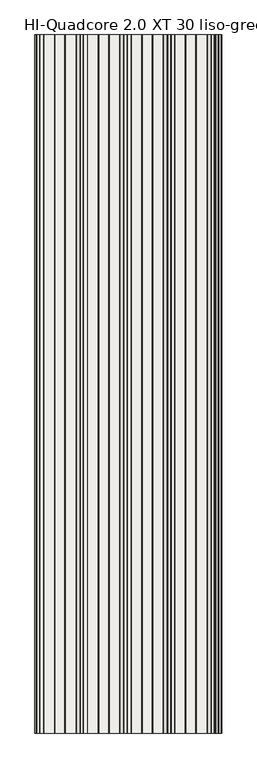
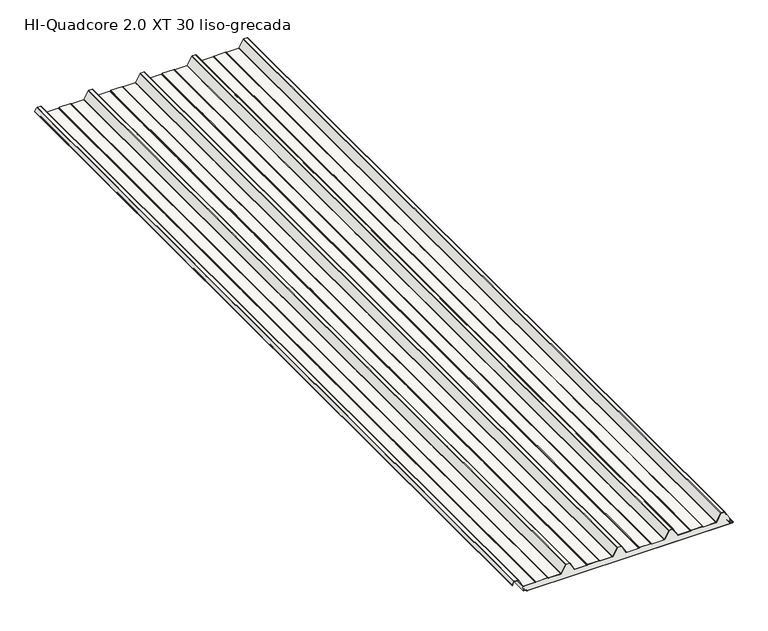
"""IFC4 building model written with IfcOpenShell, lengths in millimetres: slab geometry, Panel_HI_QuadCore 2.0 XT-XT DUAL_liso-grecada : HI-Quadcore 2.0 XT 30 liso-grecada."""

from ifc_helpers import new_model, si_unit, point, frame, frame_2d, origin, place, context, project, spatial, polyline, circle_curve, trimmed, segment, composite_curve, outline, extrude, source, transform, mapped, element, save
from ifc_brep_helpers import plane_surface, cylinder_surface, revolved_surface, advanced_brep


def hi_quadcore_2_0_xt_30_liso_grecada_d3419650(model_context):
    return source(origin(), model_context, "Body", "SolidModel", [
        advanced_brep(
        [(-463.5686109, 0.0, 13.3795578), (-464.1543582, 0.0, 11.9654043), (-464.1543963, 0.0, 8.2995811), (-462.3003213, 0.0, 6.328543), (-451.8922768, 0.0, 5.5663871), (-450.0967368, 0.0, 3.5769209), (-450.0966924, 0.0, 1.9756011), (-448.096637, 0.0, -0.0243435), (547.9162803, 0.0, 0.003269), (549.9046779, 0.0, 2.0032908), (549.904653, 0.0, 2.9012893), (548.0077486, 0.0, 4.8985749), (536.1928118, 0.0, 5.7933732), (534.3438482, 0.0, 7.7876066), (534.3437386, 0.0, 11.7402379), (533.757913, 0.0, 13.1544352), (532.3436602, 0.0, 14.5686095), (531.7779748, 0.0, 14.0029241), (533.1922433, 0.0, 12.5887341), (533.5437386, 0.0, 11.7402157), (533.5438482, 0.0, 7.7875844), (536.1323972, 0.0, 4.9956577), (547.958132, 0.0, 4.1000416), (549.104653, 0.0, 2.9012672), (549.1046779, 0.0, 2.0032686), (547.9136554, 0.0, 0.8032689), (-448.0966592, 0.0, 0.7756565), (-449.2966924, 0.0, 1.9756233), (-449.2967368, 0.0, 3.5769431), (-451.8231384, 0.0, 6.3634663), (-462.2418956, 0.0, 7.1264067), (-463.3542572, 0.0, 8.3231689), (-463.3543582, 0.0, 11.965396), (-463.0029098, 0.0, 12.8138881), (-460.8967817, 0.0, 14.920133), (-461.4624671, 0.0, 15.4858184), (-463.5686109, 4000.0, 13.3795578), (-461.4624671, 4000.0, 15.4858184), (-460.8967817, 4000.0, 14.920133), (-463.0029098, 4000.0, 12.8138881), (-463.3543582, 4000.0, 11.965396), (-463.3543963, 4000.0, 8.2995728), (-462.2418956, 4000.0, 7.1264067), (-451.8231384, 4000.0, 6.3634663), (-449.2967368, 4000.0, 3.5769431), (-449.2966924, 4000.0, 1.9756233), (-448.0966592, 4000.0, 0.7756565), (547.9136554, 4000.0, 0.8032689), (549.1046779, 4000.0, 2.0032686), (549.104653, 4000.0, 2.9012672), (547.958132, 4000.0, 4.1000416), (536.1323972, 4000.0, 4.9956577), (533.5438482, 4000.0, 7.7875844), (533.5437386, 4000.0, 11.7402157), (533.1922433, 4000.0, 12.5887341), (531.7779748, 4000.0, 14.0029241), (532.3436602, 4000.0, 14.5686095), (533.757913, 4000.0, 13.1544352), (534.3437386, 4000.0, 11.7402379), (534.3438482, 4000.0, 7.7876066), (536.1928118, 4000.0, 5.7933732), (548.0077486, 4000.0, 4.8985749), (549.904653, 4000.0, 2.9012893), (549.9046779, 4000.0, 2.0032908), (547.9162803, 4000.0, 0.003269), (-448.096637, 4000.0, -0.0243435), (-450.0966924, 4000.0, 1.9756011), (-450.0967368, 4000.0, 3.5769209), (-451.8922768, 4000.0, 5.5663871), (-462.3003213, 4000.0, 6.328543), (-464.1542572, 4000.0, 8.3231467), (-464.1543582, 4000.0, 11.9654043)],
        [
            (0, 1, circle_curve(frame((-462.1543582, 0.0, 11.9653834), z_axis=(0.0, -1.0, 0.0), x_axis=(1.0, 0.0, 0.0)), 2.0)),
            (1, 2),
            (2, 3, circle_curve(frame((-462.1542572, 0.0, 8.3232022), z_axis=(0.0, -1.0, 0.0), x_axis=(1.0, 0.0, 0.0)), 2.0)),
            (3, 4),
            (4, 5, circle_curve(frame((-452.0967368, 0.0, 3.5768655), z_axis=(0.0, 1.0, 0.0), x_axis=(1.0, 0.0, 0.0)), 2.0)),
            (5, 6),
            (6, 7, circle_curve(frame((-448.0966924, 0.0, 1.9756565), z_axis=(0.0, -1.0, 0.0), x_axis=(1.0, 0.0, 0.0)), 2.0)),
            (7, 8),
            (8, 9, circle_curve(frame((547.9046779, 0.0, 2.0032353), z_axis=(0.0, -1.0, 0.0), x_axis=(1.0, 0.0, 0.0)), 2.0)),
            (9, 10),
            (10, 11, circle_curve(frame((547.904653, 0.0, 2.9012339), z_axis=(0.0, -1.0, 0.0), x_axis=(1.0, 0.0, 0.0)), 2.0)),
            (11, 12),
            (12, 13, circle_curve(frame((536.3438482, 0.0, 7.7876621), z_axis=(0.0, 1.0, 0.0), x_axis=(1.0, 0.0, 0.0)), 2.0)),
            (13, 14),
            (14, 15, circle_curve(frame((532.3437386, 0.0, 11.7401824), z_axis=(0.0, -1.0, 0.0), x_axis=(1.0, 0.0, 0.0)), 2.0)),
            (15, 16),
            (16, 17),
            (17, 18),
            (18, 19, circle_curve(frame((532.3437386, 0.0, 11.7401824), z_axis=(0.0, 1.0, 0.0), x_axis=(1.0, 0.0, 0.0)), 1.2)),
            (19, 20),
            (20, 21, circle_curve(frame((536.3438482, 0.0, 7.7876621), z_axis=(0.0, -1.0, 0.0), x_axis=(1.0, 0.0, 0.0)), 2.8)),
            (21, 22),
            (22, 23, circle_curve(frame((547.904653, 0.0, 2.9012339), z_axis=(0.0, 1.0, 0.0), x_axis=(1.0, 0.0, 0.0)), 1.2)),
            (23, 24),
            (24, 25, circle_curve(frame((547.9046779, 0.0, 2.0032353), z_axis=(0.0, 1.0, 0.0), x_axis=(1.0, 0.0, 0.0)), 1.2)),
            (25, 26),
            (26, 27, circle_curve(frame((-448.0966924, 0.0, 1.9756565), z_axis=(0.0, 1.0, 0.0), x_axis=(1.0, 0.0, 0.0)), 1.2)),
            (27, 28),
            (28, 29, circle_curve(frame((-452.0967368, 0.0, 3.5768655), z_axis=(0.0, -1.0, 0.0), x_axis=(1.0, 0.0, 0.0)), 2.8)),
            (29, 30),
            (30, 31, circle_curve(frame((-462.1542572, 0.0, 8.3232022), z_axis=(0.0, 1.0, 0.0), x_axis=(1.0, 0.0, 0.0)), 1.2)),
            (31, 32),
            (32, 33, circle_curve(frame((-462.1543582, 0.0, 11.9653834), z_axis=(0.0, 1.0, 0.0), x_axis=(1.0, 0.0, 0.0)), 1.2)),
            (33, 34),
            (34, 35),
            (35, 0),
            (36, 37),
            (37, 38),
            (38, 39),
            (39, 40, circle_curve(frame((-462.1543582, 4000.0, 11.9653834), z_axis=(0.0, -1.0, 0.0), x_axis=(1.0, 0.0, 0.0)), 1.2)),
            (40, 41),
            (41, 42, circle_curve(frame((-462.1542572, 4000.0, 8.3232022), z_axis=(0.0, -1.0, 0.0), x_axis=(1.0, 0.0, 0.0)), 1.2)),
            (42, 43),
            (43, 44, circle_curve(frame((-452.0967368, 4000.0, 3.5768655), z_axis=(0.0, 1.0, 0.0), x_axis=(1.0, 0.0, 0.0)), 2.8)),
            (44, 45),
            (45, 46, circle_curve(frame((-448.0966924, 4000.0, 1.9756565), z_axis=(0.0, -1.0, 0.0), x_axis=(1.0, 0.0, 0.0)), 1.2)),
            (46, 47),
            (47, 48, circle_curve(frame((547.9046779, 4000.0, 2.0032353), z_axis=(0.0, -1.0, 0.0), x_axis=(1.0, 0.0, 0.0)), 1.2)),
            (48, 49),
            (49, 50, circle_curve(frame((547.904653, 4000.0, 2.9012339), z_axis=(0.0, -1.0, 0.0), x_axis=(1.0, 0.0, 0.0)), 1.2)),
            (50, 51),
            (51, 52, circle_curve(frame((536.3438482, 4000.0, 7.7876621), z_axis=(0.0, 1.0, 0.0), x_axis=(1.0, 0.0, 0.0)), 2.8)),
            (52, 53),
            (53, 54, circle_curve(frame((532.3437386, 4000.0, 11.7401824), z_axis=(0.0, -1.0, 0.0), x_axis=(1.0, 0.0, 0.0)), 1.2)),
            (54, 55),
            (55, 56),
            (56, 57),
            (57, 58, circle_curve(frame((532.3437386, 4000.0, 11.7401824), z_axis=(0.0, 1.0, 0.0), x_axis=(1.0, 0.0, 0.0)), 2.0)),
            (58, 59),
            (59, 60, circle_curve(frame((536.3438482, 4000.0, 7.7876621), z_axis=(0.0, -1.0, 0.0), x_axis=(1.0, 0.0, 0.0)), 2.0)),
            (60, 61),
            (61, 62, circle_curve(frame((547.904653, 4000.0, 2.9012339), z_axis=(0.0, 1.0, 0.0), x_axis=(1.0, 0.0, 0.0)), 2.0)),
            (62, 63),
            (63, 64, circle_curve(frame((547.9046779, 4000.0, 2.0032353), z_axis=(0.0, 1.0, 0.0), x_axis=(1.0, 0.0, 0.0)), 2.0)),
            (64, 65),
            (65, 66, circle_curve(frame((-448.0966924, 4000.0, 1.9756565), z_axis=(0.0, 1.0, 0.0), x_axis=(1.0, 0.0, 0.0)), 2.0)),
            (66, 67),
            (67, 68, circle_curve(frame((-452.0967368, 4000.0, 3.5768655), z_axis=(0.0, -1.0, 0.0), x_axis=(1.0, 0.0, 0.0)), 2.0)),
            (68, 69),
            (69, 70, circle_curve(frame((-462.1542572, 4000.0, 8.3232022), z_axis=(0.0, 1.0, 0.0), x_axis=(1.0, 0.0, 0.0)), 2.0)),
            (70, 71),
            (71, 36, circle_curve(frame((-462.1543582, 4000.0, 11.9653834), z_axis=(0.0, 1.0, 0.0), x_axis=(1.0, 0.0, 0.0)), 2.0)),
            (0, 36),
            (71, 1),
            (70, 2),
            (69, 3),
            (68, 4),
            (67, 5),
            (66, 6),
            (65, 7),
            (64, 8),
            (63, 9),
            (62, 10),
            (61, 11),
            (60, 12),
            (59, 13),
            (58, 14),
            (57, 15),
            (56, 16),
            (55, 17),
            (54, 18),
            (53, 19),
            (52, 20),
            (51, 21),
            (50, 22),
            (49, 23),
            (48, 24),
            (47, 25),
            (46, 26),
            (45, 27),
            (44, 28),
            (43, 29),
            (42, 30),
            (41, 31),
            (40, 32),
            (39, 33),
            (38, 34),
            (37, 35),
        ],
        [
            plane_surface(frame((-460.1543582, 0.0, 11.9653834), z_axis=(0.0, -1.0, 0.0), x_axis=(0.0, 0.0, 1.0))),
            plane_surface(frame((-460.1543582, 4000.0, 11.9653834), z_axis=(0.0, 1.0, 0.0), x_axis=(0.0, 0.0, -1.0))),
            cylinder_surface(frame((-462.1543582, 4000.0, 11.9653834), z_axis=(0.0, -1.0, 0.0), x_axis=(1.0, 0.0, 0.0)), 2.0),
            plane_surface(frame((-464.1543582, 0.0, 11.9654043), z_axis=(-0.9999999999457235, 0.0, 1.041887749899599e-05), x_axis=(0.0, 1.0, 0.0))),
            cylinder_surface(frame((-462.1542572, 4000.0, 8.3232022), z_axis=(0.0, -1.0, 0.0), x_axis=(1.0, 0.0, 0.0)), 2.0),
            plane_surface(frame((-462.3003213, 0.0, 6.328543), z_axis=(-0.07303203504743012, 0.0, -0.9973295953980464), x_axis=(0.0, 1.0, 0.0))),
            revolved_surface(polyline([(-450.0967368, 4000.0, 3.5768655), (-450.0967368, 0.0, 3.5768655)]), (-452.0967368, 4000.0, 3.5768655), (0.0, 1.0, 0.0)),
            plane_surface(frame((-450.0967368, 0.0, 3.5769209), z_axis=(-0.9999999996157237, 0.0, -2.7722781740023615e-05), x_axis=(0.0, 1.0, 0.0))),
            cylinder_surface(frame((-448.0966924, 4000.0, 1.9756565), z_axis=(0.0, -1.0, 0.0), x_axis=(1.0, 0.0, 0.0)), 2.0),
            plane_surface(frame((-448.096637, 0.0, -0.0243435), z_axis=(2.772298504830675e-05, 0.0, -0.9999999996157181), x_axis=(0.0, 1.0, 0.0))),
            cylinder_surface(frame((547.9046779, 4000.0, 2.0032353), z_axis=(0.0, -1.0, 0.0), x_axis=(1.0, 0.0, 0.0)), 2.0),
            plane_surface(frame((549.9046779, 0.0, 2.0032908), z_axis=(0.9999999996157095, 0.0, 2.7723295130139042e-05), x_axis=(0.0, 1.0, 0.0))),
            cylinder_surface(frame((547.904653, 4000.0, 2.9012339), z_axis=(0.0, -1.0, 0.0), x_axis=(1.0, 0.0, 0.0)), 2.0),
            plane_surface(frame((548.0077486, 0.0, 4.8985749), z_axis=(0.07551822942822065, 0.0, 0.9971444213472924), x_axis=(0.0, 1.0, 0.0))),
            revolved_surface(polyline([(538.3438482, 4000.0, 7.7876621), (538.3438482, 0.0, 7.7876621)]), (536.3438482, 4000.0, 7.7876621), (0.0, 1.0, 0.0)),
            plane_surface(frame((534.3438482, 0.0, 7.7876066), z_axis=(0.9999999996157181, 0.0, 2.7722984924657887e-05), x_axis=(0.0, 1.0, 0.0))),
            cylinder_surface(frame((532.3437386, 4000.0, 11.7401824), z_axis=(0.0, -1.0, 0.0), x_axis=(1.0, 0.0, 0.0)), 2.0),
            plane_surface(frame((533.757913, 0.0, 13.1544352), z_axis=(0.7070871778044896, 0.0, 0.7071263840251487), x_axis=(0.0, 1.0, 0.0))),
            plane_surface(frame((532.3436602, 0.0, 14.5686095), z_axis=(-0.7071067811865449, 0.0, 0.7071067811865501), x_axis=(0.0, 1.0, 0.0))),
            plane_surface(frame((531.7779748, 0.0, 14.0029241), z_axis=(-0.7070871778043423, 0.0, -0.707126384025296), x_axis=(0.0, 1.0, 0.0))),
            revolved_surface(polyline([(533.5437386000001, 4000.0, 11.7401824), (533.5437386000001, 0.0, 11.7401824)]), (532.3437386, 4000.0, 11.7401824), (0.0, 1.0, 0.0)),
            plane_surface(frame((533.5437386, 0.0, 11.7402157), z_axis=(-0.9999999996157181, 0.0, -2.7722985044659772e-05), x_axis=(0.0, 1.0, 0.0))),
            cylinder_surface(frame((536.3438482, 4000.0, 7.7876621), z_axis=(0.0, -1.0, 0.0), x_axis=(1.0, 0.0, 0.0)), 2.8),
            plane_surface(frame((536.1323972, 0.0, 4.9956577), z_axis=(-0.07551822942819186, 0.0, -0.9971444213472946), x_axis=(0.0, 1.0, 0.0))),
            revolved_surface(polyline([(549.1046530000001, 4000.0, 2.9012339), (549.1046530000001, 0.0, 2.9012339)]), (547.904653, 4000.0, 2.9012339), (0.0, 1.0, 0.0)),
            plane_surface(frame((549.104653, 0.0, 2.9012672), z_axis=(-0.9999999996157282, 0.0, -2.7722622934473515e-05), x_axis=(0.0, 1.0, 0.0))),
            revolved_surface(polyline([(549.1046779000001, 4000.0, 2.0032353), (549.1046779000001, 0.0, 2.0032353)]), (547.9046779, 4000.0, 2.0032353), (0.0, 1.0, 0.0)),
            plane_surface(frame((547.9136554, 0.0, 0.8032689), z_axis=(-2.7722985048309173e-05, 0.0, 0.9999999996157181), x_axis=(0.0, 1.0, 0.0))),
            revolved_surface(polyline([(-446.8966924, 4000.0, 1.9756565), (-446.8966924, 0.0, 1.9756565)]), (-448.0966924, 4000.0, 1.9756565), (0.0, 1.0, 0.0)),
            plane_surface(frame((-449.2966924, 0.0, 1.9756233), z_axis=(0.9999999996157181, 0.0, 2.7722983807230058e-05), x_axis=(0.0, 1.0, 0.0))),
            cylinder_surface(frame((-452.0967368, 4000.0, 3.5768655), z_axis=(0.0, -1.0, 0.0), x_axis=(1.0, 0.0, 0.0)), 2.8),
            plane_surface(frame((-451.8231384, 0.0, 6.3634663), z_axis=(0.0730320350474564, 0.0, 0.9973295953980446), x_axis=(0.0, 1.0, 0.0))),
            revolved_surface(polyline([(-460.95425720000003, 4000.0, 8.3232022), (-460.95425720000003, 0.0, 8.3232022)]), (-462.1542572, 4000.0, 8.3232022), (0.0, 1.0, 0.0)),
            plane_surface(frame((-463.3543963, 0.0, 8.2995728), z_axis=(0.9999999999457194, 0.0, -1.0419274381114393e-05), x_axis=(0.0, 1.0, 0.0))),
            revolved_surface(polyline([(-460.9543582, 4000.0, 11.9653834), (-460.9543582, 0.0, 11.9653834)]), (-462.1543582, 4000.0, 11.9653834), (0.0, 1.0, 0.0)),
            plane_surface(frame((-463.0029098, 0.0, 12.8138881), z_axis=(0.7071263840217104, 0.0, -0.7070871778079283), x_axis=(0.0, 1.0, 0.0))),
            plane_surface(frame((-460.8967817, 0.0, 14.920133), z_axis=(0.7071067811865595, 0.0, 0.7071067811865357), x_axis=(0.0, 1.0, 0.0))),
            plane_surface(frame((-461.4624671, 0.0, 15.4858184), z_axis=(-0.7071263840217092, 0.0, 0.7070871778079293), x_axis=(0.0, 1.0, 0.0))),
        ],
        [
            (0, [[1, 2, 3, 4, 5, 6, 7, 8, 9, 10, 11, 12, 13, 14, 15, 16, 17, 18, 19, 20, 21, 22, 23, 24, 25, 26, 27, 28, 29, 30, 31, 32, 33, 34, 35, 36]]),
            (1, [[37, 38, 39, 40, 41, 42, 43, 44, 45, 46, 47, 48, 49, 50, 51, 52, 53, 54, 55, 56, 57, 58, 59, 60, 61, 62, 63, 64, 65, 66, 67, 68, 69, 70, 71, 72]]),
            (2, [[-1, 73, -72, 74]]),
            (3, [[-2, -74, -71, 75]]),
            (4, [[-3, -75, -70, 76]]),
            (5, [[-4, -76, -69, 77]]),
            (6, [[-5, -77, -68, 78]]),
            (7, [[-6, -78, -67, 79]]),
            (8, [[-7, -79, -66, 80]]),
            (9, [[-8, -80, -65, 81]]),
            (10, [[-9, -81, -64, 82]]),
            (11, [[-10, -82, -63, 83]]),
            (12, [[-11, -83, -62, 84]]),
            (13, [[-12, -84, -61, 85]]),
            (14, [[-13, -85, -60, 86]]),
            (15, [[-14, -86, -59, 87]]),
            (16, [[-15, -87, -58, 88]]),
            (17, [[-16, -88, -57, 89]]),
            (18, [[-17, -89, -56, 90]]),
            (19, [[-18, -90, -55, 91]]),
            (20, [[-19, -91, -54, 92]]),
            (21, [[-20, -92, -53, 93]]),
            (22, [[-21, -93, -52, 94]]),
            (23, [[-22, -94, -51, 95]]),
            (24, [[-23, -95, -50, 96]]),
            (25, [[-24, -96, -49, 97]]),
            (26, [[-25, -97, -48, 98]]),
            (27, [[-26, -98, -47, 99]]),
            (28, [[-27, -99, -46, 100]]),
            (29, [[-28, -100, -45, 101]]),
            (30, [[-29, -101, -44, 102]]),
            (31, [[-30, -102, -43, 103]]),
            (32, [[-31, -103, -42, 104]]),
            (33, [[-32, -104, -41, 105]]),
            (34, [[-33, -105, -40, 106]]),
            (35, [[-34, -106, -39, 107]]),
            (36, [[-35, -107, -38, 108]]),
            (37, [[-36, -108, -37, -73]]),
        ],
    ),
        extrude(outline(composite_curve([segment(polyline([(68.1649405, -511.4858571), (53.6579587, -519.6460344)]), True, "CONTINUOUS"), segment(trimmed(circle_curve(frame_2d((53.0451321, -518.556565)), 1.25), [point((53.6579587, -519.6460344))], [point((52.689225, -517.3583037))], False, "CARTESIAN"), True, "CONTINUOUS"), segment(polyline([(52.689225, -517.3583037), (55.7359115, -516.562859), (55.9380053, -517.336912), (52.9074492, -518.1281453)]), True, "CONTINUOUS"), segment(trimmed(circle_curve(frame_2d((53.0451321, -518.556565)), 0.45), [point((52.9074492, -518.1281453))], [point((53.2657497, -518.948774))], True, "CARTESIAN"), True, "CONTINUOUS"), segment(polyline([(53.2657497, -518.948774), (67.7727315, -510.7885967)]), True, "CONTINUOUS"), segment(trimmed(circle_curve(frame_2d((66.4, -508.3481852)), 2.8), [point((67.7727315, -510.7885967))], [point((69.2, -508.3481852))], True, "CARTESIAN"), True, "CONTINUOUS"), segment(polyline([(69.2, -508.3481852), (69.2, -491.0688883)]), True, "CONTINUOUS"), segment(trimmed(circle_curve(frame_2d((66.4, -491.0688883)), 2.8), [point((69.2, -491.0688883))], [point((67.5457267, -488.5140281))], True, "CARTESIAN"), True, "CONTINUOUS"), segment(polyline([(67.5457267, -488.5140281), (31.2048889, -468.6947225)]), True, "CONTINUOUS"), segment(trimmed(circle_curve(frame_2d((33.0, -465.3454575)), 3.8), [point((31.2048889, -468.6947225))], [point((29.2, -465.3454575))], False, "CARTESIAN"), True, "CONTINUOUS"), segment(polyline([(29.2, -465.3454575), (29.2, -407.5510443)]), True, "CONTINUOUS"), segment(trimmed(circle_curve(frame_2d((33.0, -407.5510443)), 3.8), [point((29.2, -407.5510443))], [point((29.6973596, -405.671532))], False, "CARTESIAN"), True, "CONTINUOUS"), segment(polyline([(29.6973596, -405.671532), (30.912055, -403.5370944)]), True, "CONTINUOUS"), segment(trimmed(circle_curve(frame_2d((29.0, -402.4489557)), 2.2), [point((30.912055, -403.5370944))], [point((31.2, -402.4489557))], True, "CARTESIAN"), True, "CONTINUOUS"), segment(polyline([(31.2, -402.4489557), (31.2, -347.5510443)]), True, "CONTINUOUS"), segment(trimmed(circle_curve(frame_2d((29.0, -347.5510443)), 2.2), [point((31.2, -347.5510443))], [point((30.912055, -346.4629056))], True, "CARTESIAN"), True, "CONTINUOUS"), segment(polyline([(30.912055, -346.4629056), (29.6973596, -344.328468)]), True, "CONTINUOUS"), segment(trimmed(circle_curve(frame_2d((33.0, -342.4489557)), 3.8), [point((29.6973596, -344.328468))], [point((29.2, -342.4489557))], False, "CARTESIAN"), True, "CONTINUOUS"), segment(polyline([(29.2, -342.4489557), (29.2, -284.2545425)]), True, "CONTINUOUS"), segment(trimmed(circle_curve(frame_2d((33.0, -284.2545425)), 3.8), [point((29.2, -284.2545425))], [point((31.1370073, -280.9425554))], False, "CARTESIAN"), True, "CONTINUOUS"), segment(polyline([(31.1370073, -280.9425554), (68.0785747, -260.1629237)]), True, "CONTINUOUS"), segment(trimmed(circle_curve(frame_2d((67.0, -258.2454575)), 2.2), [point((68.0785747, -260.1629237))], [point((69.2, -258.2454575))], True, "CARTESIAN"), True, "CONTINUOUS"), segment(polyline([(69.2, -258.2454575), (69.2, -241.7545425)]), True, "CONTINUOUS"), segment(trimmed(circle_curve(frame_2d((67.0, -241.7545425)), 2.2), [point((69.2, -241.7545425))], [point((68.0785747, -239.8370763))], True, "CARTESIAN"), True, "CONTINUOUS"), segment(polyline([(68.0785747, -239.8370763), (31.1370073, -219.0574446)]), True, "CONTINUOUS"), segment(trimmed(circle_curve(frame_2d((33.0, -215.7454575)), 3.8), [point((31.1370073, -219.0574446))], [point((29.2, -215.7454575))], False, "CARTESIAN"), True, "CONTINUOUS"), segment(polyline([(29.2, -215.7454575), (29.2, -157.5510443)]), True, "CONTINUOUS"), segment(trimmed(circle_curve(frame_2d((33.0, -157.5510443)), 3.8), [point((29.2, -157.5510443))], [point((29.6973596, -155.671532))], False, "CARTESIAN"), True, "CONTINUOUS"), segment(polyline([(29.6973596, -155.671532), (30.912055, -153.5370944)]), True, "CONTINUOUS"), segment(trimmed(circle_curve(frame_2d((29.0, -152.4489557)), 2.2), [point((30.912055, -153.5370944))], [point((31.2, -152.4489557))], True, "CARTESIAN"), True, "CONTINUOUS"), segment(polyline([(31.2, -152.4489557), (31.2, -97.5510443)]), True, "CONTINUOUS"), segment(trimmed(circle_curve(frame_2d((29.0, -97.5510443)), 2.2), [point((31.2, -97.5510443))], [point((30.912055, -96.4629056))], True, "CARTESIAN"), True, "CONTINUOUS"), segment(polyline([(30.912055, -96.4629056), (29.6973596, -94.328468)]), True, "CONTINUOUS"), segment(trimmed(circle_curve(frame_2d((33.0, -92.4489557)), 3.8), [point((29.6973596, -94.328468))], [point((29.2, -92.4489557))], False, "CARTESIAN"), True, "CONTINUOUS"), segment(polyline([(29.2, -92.4489557), (29.2, -34.2545425)]), True, "CONTINUOUS"), segment(trimmed(circle_curve(frame_2d((33.0, -34.2545425)), 3.8), [point((29.2, -34.2545425))], [point((31.1370073, -30.9425554))], False, "CARTESIAN"), True, "CONTINUOUS"), segment(polyline([(31.1370073, -30.9425554), (68.0785747, -10.1629237)]), True, "CONTINUOUS"), segment(trimmed(circle_curve(frame_2d((67.0, -8.2454575)), 2.2), [point((68.0785747, -10.1629237))], [point((69.2, -8.2454575))], True, "CARTESIAN"), True, "CONTINUOUS"), segment(polyline([(69.2, -8.2454575), (69.2, 8.2454575)]), True, "CONTINUOUS"), segment(trimmed(circle_curve(frame_2d((67.0, 8.2454575)), 2.2), [point((69.2, 8.2454575))], [point((68.0785747, 10.1629237))], True, "CARTESIAN"), True, "CONTINUOUS"), segment(polyline([(68.0785747, 10.1629237), (31.1370073, 30.9425554)]), True, "CONTINUOUS"), segment(trimmed(circle_curve(frame_2d((33.0, 34.2545425)), 3.8), [point((31.1370073, 30.9425554))], [point((29.2, 34.2545425))], False, "CARTESIAN"), True, "CONTINUOUS"), segment(polyline([(29.2, 34.2545425), (29.2, 92.4489557)]), True, "CONTINUOUS"), segment(trimmed(circle_curve(frame_2d((33.0, 92.4489557)), 3.8), [point((29.2, 92.4489557))], [point((29.6973596, 94.328468))], False, "CARTESIAN"), True, "CONTINUOUS"), segment(polyline([(29.6973596, 94.328468), (30.912055, 96.4629056)]), True, "CONTINUOUS"), segment(trimmed(circle_curve(frame_2d((29.0, 97.5510443)), 2.2), [point((30.912055, 96.4629056))], [point((31.2, 97.5510443))], True, "CARTESIAN"), True, "CONTINUOUS"), segment(polyline([(31.2, 97.5510443), (31.2, 152.4489557)]), True, "CONTINUOUS"), segment(trimmed(circle_curve(frame_2d((29.0, 152.4489557)), 2.2), [point((31.2, 152.4489557))], [point((30.912055, 153.5370944))], True, "CARTESIAN"), True, "CONTINUOUS"), segment(polyline([(30.912055, 153.5370944), (29.6973596, 155.671532)]), True, "CONTINUOUS"), segment(trimmed(circle_curve(frame_2d((33.0, 157.5510443)), 3.8), [point((29.6973596, 155.671532))], [point((29.2, 157.5510443))], False, "CARTESIAN"), True, "CONTINUOUS"), segment(polyline([(29.2, 157.5510443), (29.2, 215.7454575)]), True, "CONTINUOUS"), segment(trimmed(circle_curve(frame_2d((33.0, 215.7454575)), 3.8), [point((29.2, 215.7454575))], [point((31.1370073, 219.0574446))], False, "CARTESIAN"), True, "CONTINUOUS"), segment(polyline([(31.1370073, 219.0574446), (68.0785747, 239.8370763)]), True, "CONTINUOUS"), segment(trimmed(circle_curve(frame_2d((67.0, 241.7545425)), 2.2), [point((68.0785747, 239.8370763))], [point((69.2, 241.7545425))], True, "CARTESIAN"), True, "CONTINUOUS"), segment(polyline([(69.2, 241.7545425), (69.2, 258.2454575)]), True, "CONTINUOUS"), segment(trimmed(circle_curve(frame_2d((67.0, 258.2454575)), 2.2), [point((69.2, 258.2454575))], [point((68.0785747, 260.1629237))], True, "CARTESIAN"), True, "CONTINUOUS"), segment(polyline([(68.0785747, 260.1629237), (31.1370073, 280.9425554)]), True, "CONTINUOUS"), segment(trimmed(circle_curve(frame_2d((33.0, 284.2545425)), 3.8), [point((31.1370073, 280.9425554))], [point((29.2, 284.2545425))], False, "CARTESIAN"), True, "CONTINUOUS"), segment(polyline([(29.2, 284.2545425), (29.2, 342.4489557)]), True, "CONTINUOUS"), segment(trimmed(circle_curve(frame_2d((33.0, 342.4489557)), 3.8), [point((29.2, 342.4489557))], [point((29.6973596, 344.328468))], False, "CARTESIAN"), True, "CONTINUOUS"), segment(polyline([(29.6973596, 344.328468), (30.912055, 346.4629056)]), True, "CONTINUOUS"), segment(trimmed(circle_curve(frame_2d((29.0, 347.5510443)), 2.2), [point((30.912055, 346.4629056))], [point((31.2, 347.5510443))], True, "CARTESIAN"), True, "CONTINUOUS"), segment(polyline([(31.2, 347.5510443), (31.2, 402.4489557)]), True, "CONTINUOUS"), segment(trimmed(circle_curve(frame_2d((29.0, 402.4489557)), 2.2), [point((31.2, 402.4489557))], [point((30.912055, 403.5370944))], True, "CARTESIAN"), True, "CONTINUOUS"), segment(polyline([(30.912055, 403.5370944), (29.6973596, 405.671532)]), True, "CONTINUOUS"), segment(trimmed(circle_curve(frame_2d((33.0, 407.5510443)), 3.8), [point((29.6973596, 405.671532))], [point((29.2, 407.5510443))], False, "CARTESIAN"), True, "CONTINUOUS"), segment(polyline([(29.2, 407.5510443), (29.2, 466.4208923)]), True, "CONTINUOUS"), segment(trimmed(circle_curve(frame_2d((33.0, 466.4208923)), 3.8), [point((29.2, 466.4208923))], [point((31.1583504, 469.7447946))], False, "CARTESIAN"), True, "CONTINUOUS"), segment(polyline([(31.1583504, 469.7447946), (68.0662182, 490.1940602)]), True, "CONTINUOUS"), segment(trimmed(circle_curve(frame_2d((67.0, 492.1184247)), 2.2), [point((68.0662182, 490.1940602))], [point((69.2, 492.1184247))], True, "CARTESIAN"), True, "CONTINUOUS"), segment(polyline([(69.2, 492.1184247), (69.2, 507.4945491)]), True, "CONTINUOUS"), segment(trimmed(circle_curve(frame_2d((67.0, 507.4945491)), 2.2), [point((69.2, 507.4945491))], [point((68.0785747, 509.4120152))], True, "CARTESIAN"), True, "CONTINUOUS"), segment(polyline([(68.0785747, 509.4120152), (57.5275176, 515.3469849)]), True, "CONTINUOUS"), segment(trimmed(circle_curve(frame_2d((56.9392041, 514.3010942)), 1.2), [point((57.5275176, 515.3469849))], [point((56.3392623, 515.3403583))], True, "CARTESIAN"), True, "CONTINUOUS"), segment(polyline([(56.3392623, 515.3403583), (54.7281681, 514.4103128), (54.3282068, 515.1031555), (55.939301, 516.033201)]), True, "CONTINUOUS"), segment(trimmed(circle_curve(frame_2d((56.9392041, 514.3010942)), 2.0), [point((55.939301, 516.033201))], [point((57.9197266, 516.0442453))], False, "CARTESIAN"), True, "CONTINUOUS"), segment(polyline([(57.9197266, 516.0442453), (68.4707837, 510.1092757)]), True, "CONTINUOUS"), segment(trimmed(circle_curve(frame_2d((67.0, 507.4945491)), 3.0), [point((68.4707837, 510.1092757))], [point((70.0, 507.4945491))], False, "CARTESIAN"), True, "CONTINUOUS"), segment(polyline([(70.0, 507.4945491), (70.0, 492.1184247)]), True, "CONTINUOUS"), segment(trimmed(circle_curve(frame_2d((67.0, 492.1184247)), 3.0), [point((70.0, 492.1184247))], [point((68.4539339, 489.4942913))], False, "CARTESIAN"), True, "CONTINUOUS"), segment(polyline([(68.4539339, 489.4942913), (31.5460661, 469.0450257)]), True, "CONTINUOUS"), segment(trimmed(circle_curve(frame_2d((33.0, 466.4208923)), 3.0), [point((31.5460661, 469.0450257))], [point((30.0, 466.4208923))], True, "CARTESIAN"), True, "CONTINUOUS"), segment(polyline([(30.0, 466.4208923), (30.0, 407.5510443)]), True, "CONTINUOUS"), segment(trimmed(circle_curve(frame_2d((33.0, 407.5510443)), 3.0), [point((30.0, 407.5510443))], [point((30.3926523, 406.0672188))], True, "CARTESIAN"), True, "CONTINUOUS"), segment(polyline([(30.3926523, 406.0672188), (31.6073477, 403.9327812)]), True, "CONTINUOUS"), segment(trimmed(circle_curve(frame_2d((29.0, 402.4489557)), 3.0), [point((31.6073477, 403.9327812))], [point((32.0, 402.4489557))], False, "CARTESIAN"), True, "CONTINUOUS"), segment(polyline([(32.0, 402.4489557), (32.0, 347.5510443)]), True, "CONTINUOUS"), segment(trimmed(circle_curve(frame_2d((29.0, 347.5510443)), 3.0), [point((32.0, 347.5510443))], [point((31.6073477, 346.0672188))], False, "CARTESIAN"), True, "CONTINUOUS"), segment(polyline([(31.6073477, 346.0672188), (30.3926523, 343.9327812)]), True, "CONTINUOUS"), segment(trimmed(circle_curve(frame_2d((33.0, 342.4489557)), 3.0), [point((30.3926523, 343.9327812))], [point((30.0, 342.4489557))], True, "CARTESIAN"), True, "CONTINUOUS"), segment(polyline([(30.0, 342.4489557), (30.0, 284.2545425)]), True, "CONTINUOUS"), segment(trimmed(circle_curve(frame_2d((33.0, 284.2545425)), 3.0), [point((30.0, 284.2545425))], [point((31.5292163, 281.6398158))], True, "CARTESIAN"), True, "CONTINUOUS"), segment(polyline([(31.5292163, 281.6398158), (68.4707837, 260.8601842)]), True, "CONTINUOUS"), segment(trimmed(circle_curve(frame_2d((67.0, 258.2454575)), 3.0), [point((68.4707837, 260.8601842))], [point((70.0, 258.2454575))], False, "CARTESIAN"), True, "CONTINUOUS"), segment(polyline([(70.0, 258.2454575), (70.0, 241.7545425)]), True, "CONTINUOUS"), segment(trimmed(circle_curve(frame_2d((67.0, 241.7545425)), 3.0), [point((70.0, 241.7545425))], [point((68.4707837, 239.1398158))], False, "CARTESIAN"), True, "CONTINUOUS"), segment(polyline([(68.4707837, 239.1398158), (31.5292163, 218.3601842)]), True, "CONTINUOUS"), segment(trimmed(circle_curve(frame_2d((33.0, 215.7454575)), 3.0), [point((31.5292163, 218.3601842))], [point((30.0, 215.7454575))], True, "CARTESIAN"), True, "CONTINUOUS"), segment(polyline([(30.0, 215.7454575), (30.0, 157.5510443)]), True, "CONTINUOUS"), segment(trimmed(circle_curve(frame_2d((33.0, 157.5510443)), 3.0), [point((30.0, 157.5510443))], [point((30.3926523, 156.0672188))], True, "CARTESIAN"), True, "CONTINUOUS"), segment(polyline([(30.3926523, 156.0672188), (31.6073477, 153.9327812)]), True, "CONTINUOUS"), segment(trimmed(circle_curve(frame_2d((29.0, 152.4489557)), 3.0), [point((31.6073477, 153.9327812))], [point((32.0, 152.4489557))], False, "CARTESIAN"), True, "CONTINUOUS"), segment(polyline([(32.0, 152.4489557), (32.0, 97.5510443)]), True, "CONTINUOUS"), segment(trimmed(circle_curve(frame_2d((29.0, 97.5510443)), 3.0), [point((32.0, 97.5510443))], [point((31.6073477, 96.0672188))], False, "CARTESIAN"), True, "CONTINUOUS"), segment(polyline([(31.6073477, 96.0672188), (30.3926523, 93.9327812)]), True, "CONTINUOUS"), segment(trimmed(circle_curve(frame_2d((33.0, 92.4489557)), 3.0), [point((30.3926523, 93.9327812))], [point((30.0, 92.4489557))], True, "CARTESIAN"), True, "CONTINUOUS"), segment(polyline([(30.0, 92.4489557), (30.0, 34.2545425)]), True, "CONTINUOUS"), segment(trimmed(circle_curve(frame_2d((33.0, 34.2545425)), 3.0), [point((30.0, 34.2545425))], [point((31.5292163, 31.6398158))], True, "CARTESIAN"), True, "CONTINUOUS"), segment(polyline([(31.5292163, 31.6398158), (68.4707837, 10.8601842)]), True, "CONTINUOUS"), segment(trimmed(circle_curve(frame_2d((67.0, 8.2454575)), 3.0), [point((68.4707837, 10.8601842))], [point((70.0, 8.2454575))], False, "CARTESIAN"), True, "CONTINUOUS"), segment(polyline([(70.0, 8.2454575), (70.0, -8.2454575)]), True, "CONTINUOUS"), segment(trimmed(circle_curve(frame_2d((67.0, -8.2454575)), 3.0), [point((70.0, -8.2454575))], [point((68.4707837, -10.8601842))], False, "CARTESIAN"), True, "CONTINUOUS"), segment(polyline([(68.4707837, -10.8601842), (31.5292163, -31.6398158)]), True, "CONTINUOUS"), segment(trimmed(circle_curve(frame_2d((33.0, -34.2545425)), 3.0), [point((31.5292163, -31.6398158))], [point((30.0, -34.2545425))], True, "CARTESIAN"), True, "CONTINUOUS"), segment(polyline([(30.0, -34.2545425), (30.0, -92.4489557)]), True, "CONTINUOUS"), segment(trimmed(circle_curve(frame_2d((33.0, -92.4489557)), 3.0), [point((30.0, -92.4489557))], [point((30.3926523, -93.9327812))], True, "CARTESIAN"), True, "CONTINUOUS"), segment(polyline([(30.3926523, -93.9327812), (31.6073477, -96.0672188)]), True, "CONTINUOUS"), segment(trimmed(circle_curve(frame_2d((29.0, -97.5510443)), 3.0), [point((31.6073477, -96.0672188))], [point((32.0, -97.5510443))], False, "CARTESIAN"), True, "CONTINUOUS"), segment(polyline([(32.0, -97.5510443), (32.0, -152.4489557)]), True, "CONTINUOUS"), segment(trimmed(circle_curve(frame_2d((29.0, -152.4489557)), 3.0), [point((32.0, -152.4489557))], [point((31.6073477, -153.9327812))], False, "CARTESIAN"), True, "CONTINUOUS"), segment(polyline([(31.6073477, -153.9327812), (30.3926523, -156.0672188)]), True, "CONTINUOUS"), segment(trimmed(circle_curve(frame_2d((33.0, -157.5510443)), 3.0), [point((30.3926523, -156.0672188))], [point((30.0, -157.5510443))], True, "CARTESIAN"), True, "CONTINUOUS"), segment(polyline([(30.0, -157.5510443), (30.0, -215.7454575)]), True, "CONTINUOUS"), segment(trimmed(circle_curve(frame_2d((33.0, -215.7454575)), 3.0), [point((30.0, -215.7454575))], [point((31.5292163, -218.3601842))], True, "CARTESIAN"), True, "CONTINUOUS"), segment(polyline([(31.5292163, -218.3601842), (68.4707837, -239.1398158)]), True, "CONTINUOUS"), segment(trimmed(circle_curve(frame_2d((67.0, -241.7545425)), 3.0), [point((68.4707837, -239.1398158))], [point((70.0, -241.7545425))], False, "CARTESIAN"), True, "CONTINUOUS"), segment(polyline([(70.0, -241.7545425), (70.0, -258.2454575)]), True, "CONTINUOUS"), segment(trimmed(circle_curve(frame_2d((67.0, -258.2454575)), 3.0), [point((70.0, -258.2454575))], [point((68.4707837, -260.8601842))], False, "CARTESIAN"), True, "CONTINUOUS"), segment(polyline([(68.4707837, -260.8601842), (31.5292163, -281.6398158)]), True, "CONTINUOUS"), segment(trimmed(circle_curve(frame_2d((33.0, -284.2545425)), 3.0), [point((31.5292163, -281.6398158))], [point((30.0, -284.2545425))], True, "CARTESIAN"), True, "CONTINUOUS"), segment(polyline([(30.0, -284.2545425), (30.0, -342.4489557)]), True, "CONTINUOUS"), segment(trimmed(circle_curve(frame_2d((33.0, -342.4489557)), 3.0), [point((30.0, -342.4489557))], [point((30.3926523, -343.9327812))], True, "CARTESIAN"), True, "CONTINUOUS"), segment(polyline([(30.3926523, -343.9327812), (31.6073477, -346.0672188)]), True, "CONTINUOUS"), segment(trimmed(circle_curve(frame_2d((29.0, -347.5510443)), 3.0), [point((31.6073477, -346.0672188))], [point((32.0, -347.5510443))], False, "CARTESIAN"), True, "CONTINUOUS"), segment(polyline([(32.0, -347.5510443), (32.0, -402.4489557)]), True, "CONTINUOUS"), segment(trimmed(circle_curve(frame_2d((29.0, -402.4489557)), 3.0), [point((32.0, -402.4489557))], [point((31.6073477, -403.9327812))], False, "CARTESIAN"), True, "CONTINUOUS"), segment(polyline([(31.6073477, -403.9327812), (30.3926523, -406.0672188)]), True, "CONTINUOUS"), segment(trimmed(circle_curve(frame_2d((33.0, -407.5510443)), 3.0), [point((30.3926523, -406.0672188))], [point((30.0, -407.5510443))], True, "CARTESIAN"), True, "CONTINUOUS"), segment(polyline([(30.0, -407.5510443), (30.0, -465.3454575)]), True, "CONTINUOUS"), segment(trimmed(circle_curve(frame_2d((33.0, -465.3454575)), 3.0), [point((30.0, -465.3454575))], [point((31.5852209, -467.9909065))], True, "CARTESIAN"), True, "CONTINUOUS"), segment(polyline([(31.5852209, -467.9909065), (67.9031732, -487.7977309)]), True, "CONTINUOUS"), segment(trimmed(circle_curve(frame_2d((66.4, -491.0688883)), 3.6), [point((67.9031732, -487.7977309))], [point((70.0, -491.0688883))], False, "CARTESIAN"), True, "CONTINUOUS"), segment(polyline([(70.0, -491.0688883), (70.0, -508.3481852)]), True, "CONTINUOUS"), segment(trimmed(circle_curve(frame_2d((66.4, -508.3481852)), 3.6), [point((70.0, -508.3481852))], [point((68.1649405, -511.4858571))], False, "CARTESIAN"), True, "CONTINUOUS")], self_intersect=False)), frame((0.0, 0.0, 0.0), z_axis=(0.0, 1.0, 0.0), x_axis=(0.0, 0.0, 1.0)), (0.0, 0.0, 1.0), 4000.0),
        extrude(outline(composite_curve([segment(polyline([(31.2667387, 531.036551), (57.9197266, 516.0442453)]), True, "CONTINUOUS"), segment(trimmed(circle_curve(frame_2d((56.9392041, 514.3010942)), 2.0), [point((57.9197266, 516.0442453))], [point((55.939301, 516.033201))], True, "CARTESIAN"), True, "CONTINUOUS"), segment(polyline([(55.939301, 516.033201), (54.3282068, 515.1031555), (54.7281681, 514.4103128), (56.3392623, 515.3403583)]), True, "CONTINUOUS"), segment(trimmed(circle_curve(frame_2d((56.9392041, 514.3010942)), 1.2), [point((56.3392623, 515.3403583))], [point((57.5275176, 515.3469849))], False, "CARTESIAN"), True, "CONTINUOUS"), segment(polyline([(57.5275176, 515.3469849), (68.0785747, 509.4120152)]), True, "CONTINUOUS"), segment(trimmed(circle_curve(frame_2d((67.0, 507.4945491)), 2.2), [point((68.0785747, 509.4120152))], [point((69.2, 507.4945491))], False, "CARTESIAN"), True, "CONTINUOUS"), segment(polyline([(69.2, 507.4945491), (69.2, 492.1184247)]), True, "CONTINUOUS"), segment(trimmed(circle_curve(frame_2d((67.0, 492.1184247)), 2.2), [point((69.2, 492.1184247))], [point((68.0662182, 490.1940602))], False, "CARTESIAN"), True, "CONTINUOUS"), segment(polyline([(68.0662182, 490.1940602), (31.1583504, 469.7447946)]), True, "CONTINUOUS"), segment(trimmed(circle_curve(frame_2d((33.0, 466.4208923)), 3.8), [point((31.1583504, 469.7447946))], [point((29.2, 466.4208923))], True, "CARTESIAN"), True, "CONTINUOUS"), segment(polyline([(29.2, 466.4208923), (29.2, 407.5510443)]), True, "CONTINUOUS"), segment(trimmed(circle_curve(frame_2d((33.0, 407.5510443)), 3.8), [point((29.2, 407.5510443))], [point((29.6973596, 405.671532))], True, "CARTESIAN"), True, "CONTINUOUS"), segment(polyline([(29.6973596, 405.671532), (30.912055, 403.5370944)]), True, "CONTINUOUS"), segment(trimmed(circle_curve(frame_2d((29.0, 402.4489557)), 2.2), [point((30.912055, 403.5370944))], [point((31.2, 402.4489557))], False, "CARTESIAN"), True, "CONTINUOUS"), segment(polyline([(31.2, 402.4489557), (31.2, 347.5510443)]), True, "CONTINUOUS"), segment(trimmed(circle_curve(frame_2d((29.0, 347.5510443)), 2.2), [point((31.2, 347.5510443))], [point((30.912055, 346.4629056))], False, "CARTESIAN"), True, "CONTINUOUS"), segment(polyline([(30.912055, 346.4629056), (29.6973596, 344.328468)]), True, "CONTINUOUS"), segment(trimmed(circle_curve(frame_2d((33.0, 342.4489557)), 3.8), [point((29.6973596, 344.328468))], [point((29.2, 342.4489557))], True, "CARTESIAN"), True, "CONTINUOUS"), segment(polyline([(29.2, 342.4489557), (29.2, 284.2545425)]), True, "CONTINUOUS"), segment(trimmed(circle_curve(frame_2d((33.0, 284.2545425)), 3.8), [point((29.2, 284.2545425))], [point((31.1370073, 280.9425554))], True, "CARTESIAN"), True, "CONTINUOUS"), segment(polyline([(31.1370073, 280.9425554), (68.0785747, 260.1629237)]), True, "CONTINUOUS"), segment(trimmed(circle_curve(frame_2d((67.0, 258.2454575)), 2.2), [point((68.0785747, 260.1629237))], [point((69.2, 258.2454575))], False, "CARTESIAN"), True, "CONTINUOUS"), segment(polyline([(69.2, 258.2454575), (69.2, 241.7545425)]), True, "CONTINUOUS"), segment(trimmed(circle_curve(frame_2d((67.0, 241.7545425)), 2.2), [point((69.2, 241.7545425))], [point((68.0785747, 239.8370763))], False, "CARTESIAN"), True, "CONTINUOUS"), segment(polyline([(68.0785747, 239.8370763), (31.1370073, 219.0574446)]), True, "CONTINUOUS"), segment(trimmed(circle_curve(frame_2d((33.0, 215.7454575)), 3.8), [point((31.1370073, 219.0574446))], [point((29.2, 215.7454575))], True, "CARTESIAN"), True, "CONTINUOUS"), segment(polyline([(29.2, 215.7454575), (29.2, 157.5510443)]), True, "CONTINUOUS"), segment(trimmed(circle_curve(frame_2d((33.0, 157.5510443)), 3.8), [point((29.2, 157.5510443))], [point((29.6973596, 155.671532))], True, "CARTESIAN"), True, "CONTINUOUS"), segment(polyline([(29.6973596, 155.671532), (30.912055, 153.5370944)]), True, "CONTINUOUS"), segment(trimmed(circle_curve(frame_2d((29.0, 152.4489557)), 2.2), [point((30.912055, 153.5370944))], [point((31.2, 152.4489557))], False, "CARTESIAN"), True, "CONTINUOUS"), segment(polyline([(31.2, 152.4489557), (31.2, 97.5510443)]), True, "CONTINUOUS"), segment(trimmed(circle_curve(frame_2d((29.0, 97.5510443)), 2.2), [point((31.2, 97.5510443))], [point((30.912055, 96.4629056))], False, "CARTESIAN"), True, "CONTINUOUS"), segment(polyline([(30.912055, 96.4629056), (29.6973596, 94.328468)]), True, "CONTINUOUS"), segment(trimmed(circle_curve(frame_2d((33.0, 92.4489557)), 3.8), [point((29.6973596, 94.328468))], [point((29.2, 92.4489557))], True, "CARTESIAN"), True, "CONTINUOUS"), segment(polyline([(29.2, 92.4489557), (29.2, 34.2545425)]), True, "CONTINUOUS"), segment(trimmed(circle_curve(frame_2d((33.0, 34.2545425)), 3.8), [point((29.2, 34.2545425))], [point((31.1370073, 30.9425554))], True, "CARTESIAN"), True, "CONTINUOUS"), segment(polyline([(31.1370073, 30.9425554), (68.0785747, 10.1629237)]), True, "CONTINUOUS"), segment(trimmed(circle_curve(frame_2d((67.0, 8.2454575)), 2.2), [point((68.0785747, 10.1629237))], [point((69.2, 8.2454575))], False, "CARTESIAN"), True, "CONTINUOUS"), segment(polyline([(69.2, 8.2454575), (69.2, -8.2454575)]), True, "CONTINUOUS"), segment(trimmed(circle_curve(frame_2d((67.0, -8.2454575)), 2.2), [point((69.2, -8.2454575))], [point((68.0785747, -10.1629237))], False, "CARTESIAN"), True, "CONTINUOUS"), segment(polyline([(68.0785747, -10.1629237), (31.1370073, -30.9425554)]), True, "CONTINUOUS"), segment(trimmed(circle_curve(frame_2d((33.0, -34.2545425)), 3.8), [point((31.1370073, -30.9425554))], [point((29.2, -34.2545425))], True, "CARTESIAN"), True, "CONTINUOUS"), segment(polyline([(29.2, -34.2545425), (29.2, -92.4489557)]), True, "CONTINUOUS"), segment(trimmed(circle_curve(frame_2d((33.0, -92.4489557)), 3.8), [point((29.2, -92.4489557))], [point((29.6973596, -94.328468))], True, "CARTESIAN"), True, "CONTINUOUS"), segment(polyline([(29.6973596, -94.328468), (30.912055, -96.4629056)]), True, "CONTINUOUS"), segment(trimmed(circle_curve(frame_2d((29.0, -97.5510443)), 2.2), [point((30.912055, -96.4629056))], [point((31.2, -97.5510443))], False, "CARTESIAN"), True, "CONTINUOUS"), segment(polyline([(31.2, -97.5510443), (31.2, -152.4489557)]), True, "CONTINUOUS"), segment(trimmed(circle_curve(frame_2d((29.0, -152.4489557)), 2.2), [point((31.2, -152.4489557))], [point((30.912055, -153.5370944))], False, "CARTESIAN"), True, "CONTINUOUS"), segment(polyline([(30.912055, -153.5370944), (29.6973596, -155.671532)]), True, "CONTINUOUS"), segment(trimmed(circle_curve(frame_2d((33.0, -157.5510443)), 3.8), [point((29.6973596, -155.671532))], [point((29.2, -157.5510443))], True, "CARTESIAN"), True, "CONTINUOUS"), segment(polyline([(29.2, -157.5510443), (29.2, -215.7454575)]), True, "CONTINUOUS"), segment(trimmed(circle_curve(frame_2d((33.0, -215.7454575)), 3.8), [point((29.2, -215.7454575))], [point((31.1370073, -219.0574446))], True, "CARTESIAN"), True, "CONTINUOUS"), segment(polyline([(31.1370073, -219.0574446), (68.0785747, -239.8370763)]), True, "CONTINUOUS"), segment(trimmed(circle_curve(frame_2d((67.0, -241.7545425)), 2.2), [point((68.0785747, -239.8370763))], [point((69.2, -241.7545425))], False, "CARTESIAN"), True, "CONTINUOUS"), segment(polyline([(69.2, -241.7545425), (69.2, -258.2454575)]), True, "CONTINUOUS"), segment(trimmed(circle_curve(frame_2d((67.0, -258.2454575)), 2.2), [point((69.2, -258.2454575))], [point((68.0785747, -260.1629237))], False, "CARTESIAN"), True, "CONTINUOUS"), segment(polyline([(68.0785747, -260.1629237), (31.1370073, -280.9425554)]), True, "CONTINUOUS"), segment(trimmed(circle_curve(frame_2d((33.0, -284.2545425)), 3.8), [point((31.1370073, -280.9425554))], [point((29.2, -284.2545425))], True, "CARTESIAN"), True, "CONTINUOUS"), segment(polyline([(29.2, -284.2545425), (29.2, -342.4489557)]), True, "CONTINUOUS"), segment(trimmed(circle_curve(frame_2d((33.0, -342.4489557)), 3.8), [point((29.2, -342.4489557))], [point((29.6973596, -344.328468))], True, "CARTESIAN"), True, "CONTINUOUS"), segment(polyline([(29.6973596, -344.328468), (30.912055, -346.4629056)]), True, "CONTINUOUS"), segment(trimmed(circle_curve(frame_2d((29.0, -347.5510443)), 2.2), [point((30.912055, -346.4629056))], [point((31.2, -347.5510443))], False, "CARTESIAN"), True, "CONTINUOUS"), segment(polyline([(31.2, -347.5510443), (31.2, -402.4489557)]), True, "CONTINUOUS"), segment(trimmed(circle_curve(frame_2d((29.0, -402.4489557)), 2.2), [point((31.2, -402.4489557))], [point((30.912055, -403.5370944))], False, "CARTESIAN"), True, "CONTINUOUS"), segment(polyline([(30.912055, -403.5370944), (29.6973596, -405.671532)]), True, "CONTINUOUS"), segment(trimmed(circle_curve(frame_2d((33.0, -407.5510443)), 3.8), [point((29.6973596, -405.671532))], [point((29.2, -407.5510443))], True, "CARTESIAN"), True, "CONTINUOUS"), segment(polyline([(29.2, -407.5510443), (29.2, -465.3454575)]), True, "CONTINUOUS"), segment(trimmed(circle_curve(frame_2d((33.0, -465.3454575)), 3.8), [point((29.2, -465.3454575))], [point((31.2048889, -468.6947225))], True, "CARTESIAN"), True, "CONTINUOUS"), segment(polyline([(31.2048889, -468.6947225), (7.0308356, -465.5377778), (7.2414508, -464.1542269), (11.9758652, -464.1543582)]), True, "CONTINUOUS"), segment(trimmed(circle_curve(frame_2d((11.9759207, -462.1543582)), 2.0), [point((11.9758652, -464.1543582))], [point((13.390095, -463.5686109))], True, "CARTESIAN"), True, "CONTINUOUS"), segment(polyline([(13.390095, -463.5686109), (15.4963556, -461.4624671), (14.9306702, -460.8967817), (12.8244253, -463.0029098)]), True, "CONTINUOUS"), segment(trimmed(circle_curve(frame_2d((11.9759207, -462.1543582)), 1.2), [point((12.8244253, -463.0029098))], [point((11.9758874, -463.3543582))], False, "CARTESIAN"), True, "CONTINUOUS"), segment(polyline([(11.9758874, -463.3543582), (8.3337062, -463.3542572)]), True, "CONTINUOUS"), segment(trimmed(circle_curve(frame_2d((8.3337394, -462.1542572)), 1.2), [point((8.3337062, -463.3542572))], [point((7.1369439, -462.2418956))], False, "CARTESIAN"), True, "CONTINUOUS"), segment(polyline([(7.1369439, -462.2418956), (6.3740035, -451.8231384)]), True, "CONTINUOUS"), segment(trimmed(circle_curve(frame_2d((3.5874027, -452.0967368)), 2.8), [point((6.3740035, -451.8231384))], [point((3.5874804, -449.2967368))], True, "CARTESIAN"), True, "CONTINUOUS"), segment(polyline([(3.5874804, -449.2967368), (1.9756233, -449.2966924)]), True, "CONTINUOUS"), segment(trimmed(circle_curve(frame_2d((1.9756565, -448.0966924)), 1.2), [point((1.9756233, -449.2966924))], [point((0.7756565, -448.0966592))], False, "CARTESIAN"), True, "CONTINUOUS"), segment(polyline([(0.7756565, -448.0966592), (0.8032689, 547.9136554)]), True, "CONTINUOUS"), segment(trimmed(circle_curve(frame_2d((2.0032353, 547.9046779)), 1.2), [point((0.8032689, 547.9136554))], [point((2.0032686, 549.1046779))], False, "CARTESIAN"), True, "CONTINUOUS"), segment(polyline([(2.0032686, 549.1046779), (2.9118044, 549.104653)]), True, "CONTINUOUS"), segment(trimmed(circle_curve(frame_2d((2.9117711, 547.904653)), 1.2), [point((2.9118044, 549.104653))], [point((4.1105789, 547.958132))], False, "CARTESIAN"), True, "CONTINUOUS"), segment(polyline([(4.1105789, 547.958132), (5.0061949, 536.1323972)]), True, "CONTINUOUS"), segment(trimmed(circle_curve(frame_2d((7.7981993, 536.3438482)), 2.8), [point((5.0061949, 536.1323972))], [point((7.7981217, 533.5438482))], True, "CARTESIAN"), True, "CONTINUOUS"), segment(polyline([(7.7981217, 533.5438482), (11.7460458, 533.5455151)]), True, "CONTINUOUS"), segment(trimmed(circle_curve(frame_2d((11.7411592, 532.3429645)), 1.2025605), [point((11.7460458, 533.5455151))], [point((12.5937174, 533.1910778))], False, "CARTESIAN"), True, "CONTINUOUS"), segment(polyline([(12.5937174, 533.1910778), (14.0134457, 531.7779905), (14.5791311, 532.3436759), (13.1649724, 533.757913), (31.2667387, 531.036551)]), True, "CONTINUOUS")], self_intersect=False)), frame((0.0, 0.0, 0.0), z_axis=(0.0, 1.0, 0.0), x_axis=(0.0, 0.0, 1.0)), (0.0, 0.0, 1.0), 4000.0),
    ])


if __name__ == "__main__":
    model = new_model("IFC4")
    model_context = context("Model", 3, world=origin())
    ifc_project = project(units=[si_unit("LENGTHUNIT", "METRE", prefix="MILLI")], contexts=[model_context])
    site = spatial("IfcSite", under=ifc_project)
    building = spatial("IfcBuilding", under=site)
    placement = place(None, origin())
    hi_quadcore_2_0_xt_30_liso_grecada_shape = hi_quadcore_2_0_xt_30_liso_grecada_d3419650(model_context)
    element("IfcSlab", 1, ObjectType="Panel_HI_QuadCore 2.0 XT-XT DUAL_liso-grecada : HI-Quadcore 2.0 XT 30 liso-grecada", at=placement, inside=building, context=model_context, shape_type="MappedRepresentation", body=[
        mapped(hi_quadcore_2_0_xt_30_liso_grecada_shape, transform((0.0, 0.0, 0.0), x_axis=(1.0, 0.0, 0.0), y_axis=(0.0, 1.0, 0.0), z_axis=(0.0, 0.0, 1.0))),
    ])
    save(model, "model.ifc")
